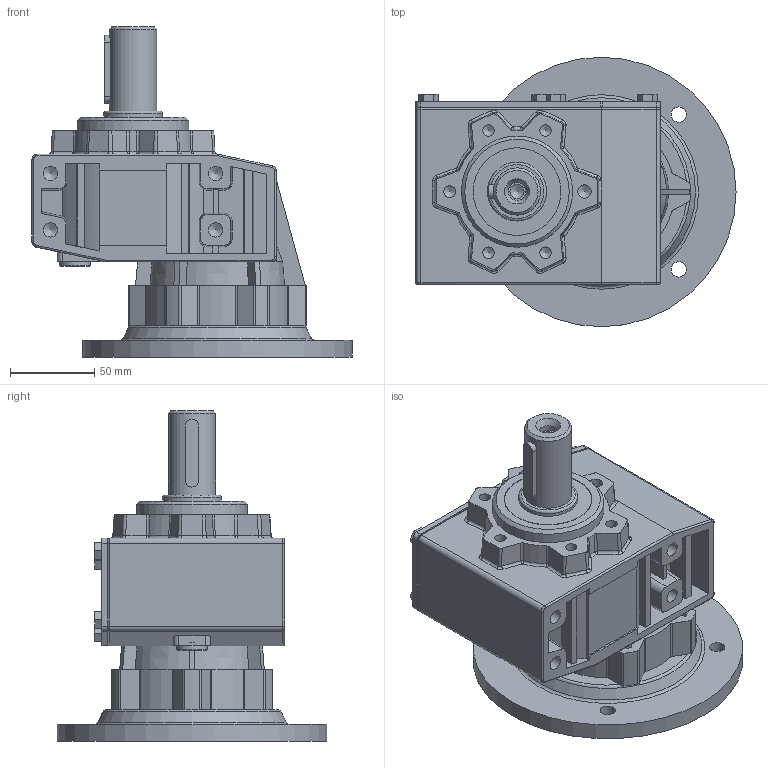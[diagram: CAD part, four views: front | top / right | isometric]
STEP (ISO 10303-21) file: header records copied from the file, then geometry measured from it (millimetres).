
FILE_DESCRIPTION( ( 'Unknown' ), '1' );
FILE_NAME( 'E:/services/configuratordownloads/customers/HYDROMEC/MONOSTADIO/download/76BA6240604179FF2AB8CB89AF898B19/STEP/76BA6240604179FF2AB8CB89AF898B19.3d.stp', 'Unknown', ( 'Unknown' ), ( 'Unknown' ), 'PSStep 10.1', 'Unknown', ' ' );
FILE_SCHEMA( ( 'AUTOMOTIVE_DESIGN { 1 0 10303 214 1 1 1 1 }' ) );
Length unit declared in the file: millimetre
Products named in the file (2): 5118800
Bounding box: 190 x 160 x 196 mm (x, y, z)
Volume: 1494423.7 mm3; surface area: 154101.6 mm2
Topology: 2 solids, 9 shells, 443 faces, 1139 edges, 732 vertices
Faces by surface type: plane 206, cylinder 133, cone 44, bspline 38, torus 22
Full cylindrical faces by diameter (mm): 5 x6, 6.8 x5, 8 x1, 8.376 x1, 8.5 x4, 9 x4, 10.5 x1, 18 x1, 19 x1, 20 x1, 28 x1, 35 x1, 45 x2, 52 x1, 66 x1, 68 x1, 75 x1, 110 x1, 160 x1
Entity records: 18455 total; most frequent: CARTESIAN_POINT 4829, ORIENTED_EDGE 2052, DIRECTION 1976, EDGE_CURVE 1026, AXIS2_PLACEMENT_3D 704, VERTEX_POINT 702, LINE 568, VECTOR 568
